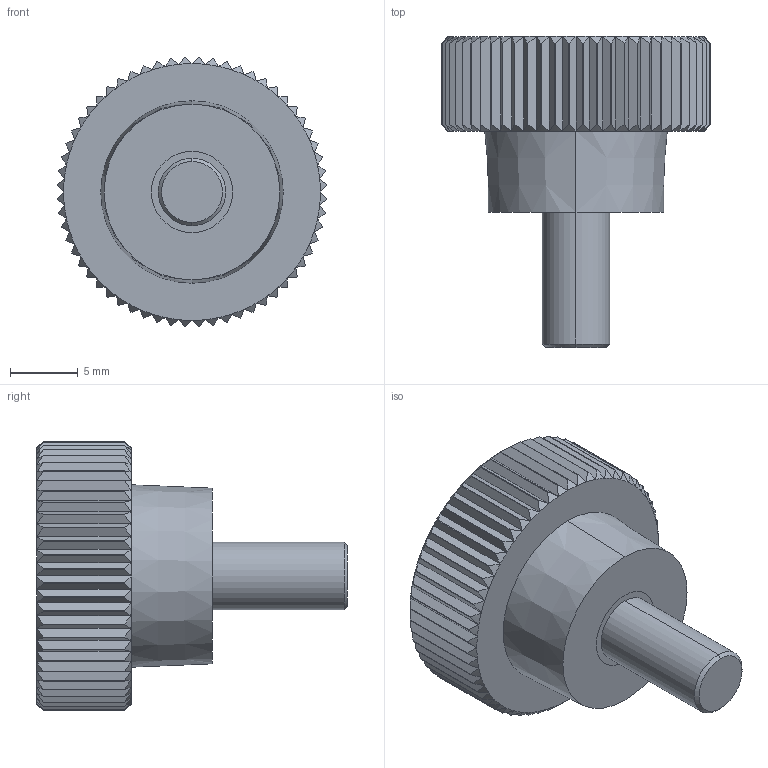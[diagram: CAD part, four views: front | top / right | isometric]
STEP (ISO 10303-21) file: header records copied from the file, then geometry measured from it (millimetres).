
FILE_DESCRIPTION (( 'STEP AP203' ), '1' );
FILE_NAME ('wn4662_20-m5x10.step', '2007-02-15T10:21:56', ( 'Magnus Fahlstrom' ), ( '' ), 'SwSTEP 2.0', 'SolidWorks 2007', '' );
FILE_SCHEMA (( 'CONFIG_CONTROL_DESIGN' ));
Length unit declared in the file: millimetre
Products named in the file (1): wn4662_20-m5x10
Bounding box: 19.98 x 23 x 19.98 mm (x, y, z)
Volume: 3047.3 mm3; surface area: 1863.1 mm2
Topology: 3 solids, 3 shells, 321 faces, 694 edges, 382 vertices
Faces by surface type: plane 129, cone 126, cylinder 66
Entity records: 8787 total; most frequent: CARTESIAN_POINT 2118, ORIENTED_EDGE 1388, DIRECTION 1360, EDGE_CURVE 694, AXIS2_PLACEMENT_3D 584, VERTEX_POINT 382, EDGE_LOOP 324, ADVANCED_FACE 321
